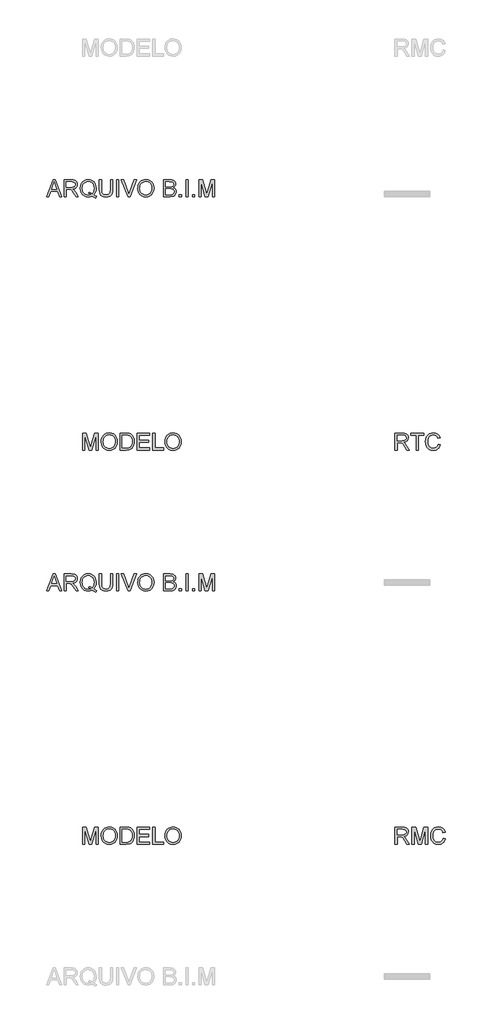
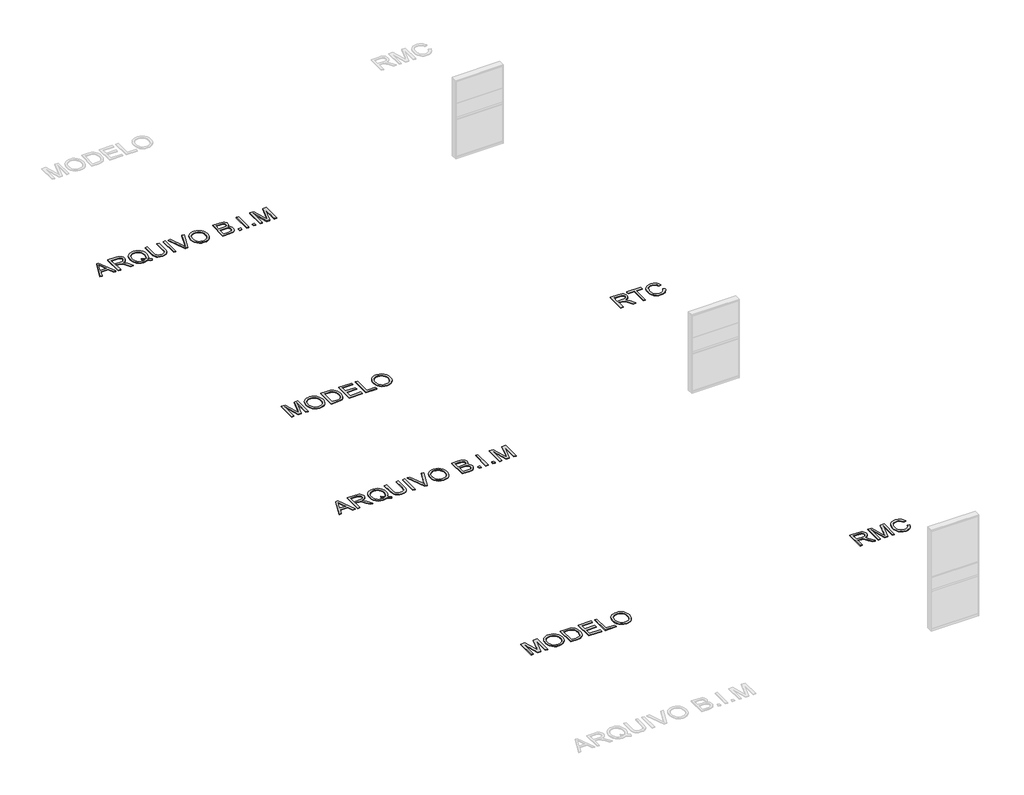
# One storey, part 9 of 15: 6 proxies.
"""IFC4 building model written with IfcOpenShell, lengths in millimetres."""

from ifc_helpers import new_model, si_unit, origin, origin_with_axes, place, context, project, spatial, polyline, outline, extrude, element, save

model = new_model("IFC4")

# Units and contexts
model_context = context("Model", 3, world=origin())
ifc_project = project(units=[si_unit("LENGTHUNIT", "METRE", prefix="MILLI")], contexts=[model_context])

# Site, building, storey
site = spatial("IfcSite", under=ifc_project)
building = spatial("IfcBuilding", under=site)
storey = spatial("IfcBuildingStorey", under=building, Name="Marelli - Linha REASONS - Planta Baixa", Elevation=0.0)

# Proxies
placement = place(None, origin())
element("IfcBuildingElementProxy", 1, Name="300mm Arial", ObjectType="300mm Arial", at=placement, inside=storey, context=model_context, shape_type="SweptSolid", body=[
    extrude(outline(polyline([(9390.580402, -70280.5663201), (9510.8778144, -69979.1973896), (9542.9571244, -69979.1973896), (9663.2545368, -70280.5663201), (9623.449705, -70280.5663201), (9588.9423738, -70186.3885293), (9464.8189886, -70186.3885293), (9430.3852339, -70280.5663201), (9390.580402, -70280.5663201)]), holes=[polyline([(9478.6513517, -70148.717413), (9575.1835872, -70148.717413), (9548.0338959, -70074.6259792), (9526.9174694, -70016.8685059), (9508.1554877, -70068.1512561), (9478.6513517, -70148.717413)])]), origin_with_axes(), (0.0, 0.0, 1.0), 10.0),
    extrude(outline(polyline([(9703.5008271, -70280.5663201), (9703.5008271, -69979.1973896), (9833.3631714, -69979.1973896), (9868.2659757, -69981.2299376), (9893.6590304, -69987.3275817), (9912.2186771, -69998.5847708), (9926.6212572, -70016.0959537), (9935.8642923, -70037.8101885), (9938.945304, -70061.6765329), (9933.8409413, -70091.3646099), (9918.5278533, -70115.9759154), (9906.9280741, -70126.0052983), (9892.5461874, -70134.0205273), (9855.4360911, -70144.0085235), (9876.8468232, -70160.1217548), (9907.3810288, -70198.8965171), (9957.6337094, -70280.5663201), (9913.855752, -70280.5663201), (9874.6395313, -70218.0999573), (9846.3126176, -70176.750021), (9826.4102017, -70157.2154871), (9808.4943485, -70150.0417882), (9786.642158, -70148.717413), (9741.1719434, -70148.717413), (9741.1719434, -70280.5663201), (9703.5008271, -70280.5663201)]), holes=[polyline([(9741.1719434, -70111.0462967), (9825.4904967, -70111.0462967), (9849.706329, -70109.7127245), (9868.4959019, -70105.7120078), (9882.6409647, -70098.7774322), (9892.9232664, -70088.6422832), (9899.1864574, -70076.3826157), (9901.2741877, -70063.0744845), (9897.2918651, -70044.6987789), (9885.3448973, -70029.8915286), (9864.7894908, -70020.1242616), (9834.9818522, -70016.8685059), (9741.1719434, -70016.8685059), (9741.1719434, -70111.0462967)])]), origin_with_axes(), (0.0, 0.0, 1.0), 10.0),
    extrude(outline(polyline([(10231.2643374, -70244.4403081), (10255.5997314, -70263.036743), (10277.9853508, -70275.8574305), (10267.8318077, -70303.4485802), (10236.7641732, -70289.0460001), (10205.8069033, -70268.205485), (10170.9500843, -70281.0077785), (10132.5983863, -70285.2752096), (10094.0627473, -70280.3547879), (10059.2427164, -70265.5935229), (10030.0788713, -70241.9203165), (10008.5117893, -70210.2640708), (9995.185264, -70172.3630282), (9990.7430889, -70129.9554312), (9995.176067, -70087.511046), (10008.4750011, -70049.0581805), (10029.9593096, -70016.9512794), (10058.9484108, -69993.5447874), (10093.639683, -69979.2525719), (10132.2305043, -69974.4885001), (10171.1248282, -69979.3629365), (10205.9908443, -69993.9862458), (10234.9339603, -70017.3835407), (10256.0595839, -70048.5799339), (10268.9722419, -70085.9199564), (10273.2764612, -70127.7481393), (10270.6644991, -70162.5313819), (10262.8286126, -70193.5990164), (10249.7136194, -70220.9142546), (10231.2643374, -70244.4403081)]), holes=[polyline([(10142.9726585, -70194.3347804), (10174.6472983, -70206.3093393), (10200.215097, -70222.9559996), (10215.6983305, -70205.4816049), (10226.7577829, -70184.1076609), (10233.3934544, -70158.8341679), (10235.6053449, -70129.6611256), (10232.478348, -70096.5057608), (10223.0973571, -70067.8201623), (10207.6922985, -70044.3308969), (10186.4930986, -70026.7645316), (10160.934497, -70015.8108452), (10132.4512335, -70012.1596164), (10110.966925, -70014.0059242), (10091.3956028, -70019.5448474), (10073.7372671, -70028.7763863), (10057.9919177, -70041.7005406), (10045.0516685, -70058.2897193), (10035.8086334, -70078.5163313), (10030.2628123, -70102.3803764), (10028.4142052, -70129.8818548), (10030.2421189, -70156.6659634), (10035.7258599, -70180.1437324), (10044.8654282, -70200.3151621), (10057.6608239, -70217.1802523), (10073.2981079, -70230.4906827), (10090.9633415, -70239.9981331), (10110.6565245, -70245.7026032), (10132.3776571, -70247.6040933), (10153.2917485, -70245.6727128), (10172.918253, -70239.8785714), (10153.6228423, -70229.853787), (10133.2605739, -70223.1767288), (10142.9726585, -70194.3347804)])]), origin_with_axes(), (0.0, 0.0, 1.0), 10.0),
    extrude(outline(polyline([(10527.5564963, -69979.1973896), (10565.2276126, -69979.1973896), (10565.2276126, -70153.0584205), (10562.6708327, -70193.7737604), (10555.0004931, -70225.1265034), (10540.6714894, -70249.3147446), (10518.1387172, -70268.5365788), (10487.3469942, -70281.0905519), (10448.2411381, -70285.2752096), (10409.9906077, -70281.6331779), (10379.4104168, -70270.7070826), (10356.4913685, -70252.8740029), (10341.2242657, -70228.5110178), (10332.6434182, -70195.8338995), (10329.7831357, -70153.0584205), (10329.7831357, -69979.1973896), (10367.454252, -69979.1973896), (10367.454252, -70151.7340454), (10369.3120561, -70185.588386), (10374.8854683, -70209.1604248), (10384.9838291, -70225.4851883), (10400.4164788, -70237.597703), (10420.5396239, -70245.1024957), (10444.709471, -70247.6040933), (10483.0243808, -70242.6560805), (10497.3671801, -70236.4710644), (10508.500209, -70227.812042), (10516.8373347, -70215.6351479), (10522.7924245, -70198.8965171), (10527.5564963, -70151.7340454), (10527.5564963, -69979.1973896)])), origin_with_axes(), (0.0, 0.0, 1.0), 10.0),
    extrude(outline(polyline([(10635.8609557, -70280.5663201), (10635.8609557, -69979.1973896), (10673.532072, -69979.1973896), (10673.532072, -70280.5663201), (10635.8609557, -70280.5663201)])), origin_with_axes(), (0.0, 0.0, 1.0), 10.0),
    extrude(outline(polyline([(10837.9017474, -70280.5663201), (10717.972217, -69979.1973896), (10758.2920837, -69979.1973896), (10838.563935, -70196.3213432), (10854.8243192, -70245.2496485), (10870.8639742, -70196.3213432), (10951.3565547, -69979.1973896), (10991.6764214, -69979.1973896), (10876.8236625, -70280.5663201), (10837.9017474, -70280.5663201)])), origin_with_axes(), (0.0, 0.0, 1.0), 10.0),
    extrude(outline(polyline([(11012.5721187, -70133.8549804), (11015.0829134, -70098.5061192), (11022.6152972, -70067.213157), (11035.1692703, -70039.9760937), (11052.7448326, -70016.7949295), (11074.288922, -69998.2858666), (11098.7484761, -69985.0651074), (11126.1234951, -69977.1326519), (11156.4139789, -69974.4885001), (11195.9428992, -69979.454907), (11231.3883295, -69994.3541278), (11260.8188891, -70018.1376988), (11282.3031976, -70049.7571563), (11295.4365848, -70087.68579), (11299.8143806, -70130.3968896), (11295.2066586, -70173.6782064), (11281.3834926, -70212.140269), (11259.1082378, -70243.8149088), (11229.1442493, -70266.733957), (11194.0023217, -70280.6398965), (11156.1932497, -70285.2752096), (11116.057324, -70280.1524528), (11080.4095587, -70264.7841825), (11051.0525754, -70240.5591531), (11029.7889961, -70208.8661192), (11016.8763381, -70172.3998164), (11012.5721187, -70133.8549804)]), holes=[polyline([(11050.2432351, -70134.2228624), (11052.126331, -70159.1974513), (11057.7756189, -70181.3669401), (11067.1910987, -70200.7313286), (11080.3727705, -70217.2906169), (11096.3963306, -70230.5527628), (11114.3374757, -70240.0257242), (11134.1962056, -70245.709501), (11155.9725205, -70247.6040933), (11178.1213158, -70245.6911069), (11198.2145706, -70239.9521478), (11216.2522846, -70230.3872159), (11232.2344581, -70216.9963113), (11245.3195608, -70200.0875351), (11254.6660627, -70179.9689885), (11260.2739639, -70156.6406715), (11262.1432643, -70130.102584), (11258.9426909, -70096.7540812), (11249.3409708, -70067.9305269), (11233.5864244, -70044.358488), (11211.9273719, -70026.7645316), (11185.7985532, -70015.8108452), (11156.6347081, -70012.1596164), (11135.6148506, -70013.9185522), (11116.1125063, -70019.1953595), (11098.1276752, -70027.9900385), (11081.6603574, -70040.302589), (11067.9153664, -70056.7262208), (11058.0975156, -70077.8541437), (11052.2068052, -70103.6863575), (11050.2432351, -70134.2228624)])]), origin_with_axes(), (0.0, 0.0, 1.0), 10.0),
    extrude(outline(polyline([(11469.334404, -70280.5663201), (11469.334404, -69979.1973896), (11584.3343156, -69979.1973896), (11615.9629702, -69981.4138786), (11640.6570491, -69988.0633457), (11659.5845778, -69999.3113377), (11673.9135815, -70015.3234015), (11682.9358874, -70034.1589597), (11685.9433227, -70053.8774346), (11683.414134, -70072.0232141), (11675.8265679, -70089.0837416), (11663.125442, -70104.0105535), (11645.2555741, -70115.7551862), (11666.6019268, -70126.9020107), (11682.3748674, -70143.8613707), (11692.1145432, -70165.5112261), (11695.3611018, -70190.7295368), (11693.1446128, -70211.7447958), (11686.4951457, -70231.2333445), (11676.5715289, -70247.8064284), (11664.5325906, -70260.0752929), (11649.7897196, -70268.9596431), (11631.7543048, -70275.3791839), (11583.4513989, -70280.5663201), (11469.334404, -70280.5663201)]), holes=[polyline([(11507.0055203, -70101.6285176), (11575.7994534, -70101.6285176), (11615.9721672, -70098.3911561), (11630.0344565, -70092.8085468), (11640.1420143, -70084.4484284), (11646.2396584, -70073.4395597), (11648.2722064, -70059.9106994), (11646.3776141, -70046.7773121), (11640.6938373, -70035.3361821), (11631.4783933, -70026.4058467), (11618.9887996, -70020.8048433), (11570.575529, -70016.8685059), (11507.0055203, -70016.8685059), (11507.0055203, -70101.6285176)]), polyline([(11507.0055203, -70242.8952038), (11584.2607393, -70242.8952038), (11612.2197709, -70241.4236758), (11635.8745832, -70233.2199073), (11651.5463562, -70216.4812765), (11656.1540782, -70204.6538704), (11657.6899855, -70191.0974188), (11655.8873637, -70175.3520694), (11650.4794984, -70161.814012), (11641.0341282, -70151.2282076), (11627.1189917, -70144.3396173), (11607.4097138, -70140.5596298), (11580.5819193, -70139.2996339), (11507.0055203, -70139.2996339), (11507.0055203, -70242.8952038)])]), origin_with_axes(), (0.0, 0.0, 1.0), 10.0),
    extrude(outline(polyline([(11751.8677763, -70280.5663201), (11751.8677763, -70242.8952038), (11789.5388926, -70242.8952038), (11789.5388926, -70280.5663201), (11751.8677763, -70280.5663201)])), origin_with_axes(), (0.0, 0.0, 1.0), 10.0),
    extrude(outline(polyline([(11869.5900147, -70280.5663201), (11869.5900147, -69979.1973896), (11907.261131, -69979.1973896), (11907.261131, -70280.5663201), (11869.5900147, -70280.5663201)])), origin_with_axes(), (0.0, 0.0, 1.0), 10.0),
    extrude(outline(polyline([(11987.3122532, -70280.5663201), (11987.3122532, -70242.8952038), (12024.9833695, -70242.8952038), (12024.9833695, -70280.5663201), (11987.3122532, -70280.5663201)])), origin_with_axes(), (0.0, 0.0, 1.0), 10.0),
    extrude(outline(polyline([(12100.3256021, -70280.5663201), (12100.3256021, -69979.1973896), (12165.1464096, -69979.1973896), (12226.803432, -70191.6124536), (12239.2378435, -70235.9790223), (12252.7023245, -70187.9336337), (12313.3292773, -69979.1973896), (12378.1500848, -69979.1973896), (12378.1500848, -70280.5663201), (12340.4789685, -70280.5663201), (12340.4789685, -70016.8685059), (12264.7688539, -70280.5663201), (12213.706833, -70280.5663201), (12137.9967184, -70016.8685059), (12137.9967184, -70280.5663201), (12100.3256021, -70280.5663201)])), origin_with_axes(), (0.0, 0.0, 1.0), 10.0),
])
element("IfcBuildingElementProxy", 2, Name="300mm Arial", ObjectType="300mm Arial", at=placement, inside=storey, context=model_context, shape_type="SweptSolid", body=[
    extrude(outline(polyline([(10033.1230948, -67780.5663201), (10033.1230948, -67479.1973896), (10097.9439023, -67479.1973896), (10159.6009247, -67691.6124536), (10172.0353362, -67735.9790223), (10185.4998172, -67687.9336337), (10246.12677, -67479.1973896), (10310.9475775, -67479.1973896), (10310.9475775, -67780.5663201), (10273.2764612, -67780.5663201), (10273.2764612, -67516.8685059), (10197.5663466, -67780.5663201), (10146.5043257, -67780.5663201), (10070.7942111, -67516.8685059), (10070.7942111, -67780.5663201), (10033.1230948, -67780.5663201)])), origin_with_axes(), (0.0, 0.0, 1.0), 10.0),
    extrude(outline(polyline([(10362.7453625, -67633.8549804), (10365.2561571, -67598.5061192), (10372.7885409, -67567.213157), (10385.342514, -67539.9760937), (10402.9180763, -67516.7949295), (10424.4621657, -67498.2858666), (10448.9217198, -67485.0651074), (10476.2967388, -67477.1326519), (10506.5872226, -67474.4885001), (10546.116143, -67479.454907), (10581.5615732, -67494.3541278), (10610.9921328, -67518.1376988), (10632.4764413, -67549.7571563), (10645.6098286, -67587.68579), (10649.9876243, -67630.3968896), (10645.3799023, -67673.6782064), (10631.5567363, -67712.140269), (10609.2814815, -67743.8149088), (10579.317493, -67766.733957), (10544.1755654, -67780.6398965), (10506.3664934, -67785.2752096), (10466.2305677, -67780.1524528), (10430.5828024, -67764.7841825), (10401.2258192, -67740.5591531), (10379.9622398, -67708.8661192), (10367.0495818, -67672.3998164), (10362.7453625, -67633.8549804)]), holes=[polyline([(10400.4164788, -67634.2228624), (10402.2995747, -67659.1974513), (10407.9488626, -67681.3669401), (10417.3643424, -67700.7313286), (10430.5460142, -67717.2906169), (10446.5695743, -67730.5527628), (10464.5107194, -67740.0257242), (10484.3694493, -67745.709501), (10506.1457642, -67747.6040933), (10528.2945596, -67745.6911069), (10548.3878143, -67739.9521478), (10566.4255284, -67730.3872159), (10582.4077018, -67716.9963113), (10595.4928045, -67700.0875351), (10604.8393064, -67679.9689885), (10610.4472076, -67656.6406715), (10612.316508, -67630.102584), (10609.1159346, -67596.7540812), (10599.5142146, -67567.9305269), (10583.7596681, -67544.358488), (10562.1006157, -67526.7645316), (10535.9717969, -67515.8108452), (10506.8079518, -67512.1596164), (10485.7880943, -67513.9185522), (10466.28575, -67519.1953595), (10448.300919, -67527.9900385), (10431.8336012, -67540.302589), (10418.0886101, -67556.7262208), (10408.2707594, -67577.8541437), (10402.3800489, -67603.6863575), (10400.4164788, -67634.2228624)])]), origin_with_axes(), (0.0, 0.0, 1.0), 10.0),
    extrude(outline(polyline([(10701.7854092, -67780.5663201), (10701.7854092, -67479.1973896), (10805.7488611, -67479.1973896), (10859.5332088, -67483.5383972), (10883.555903, -67491.9077126), (10903.826201, -67505.0962821), (10924.666716, -67528.0521186), (10939.5107545, -67556.5997614), (10948.3951047, -67590.1873876), (10951.3565547, -67628.2631741), (10949.3515979, -67660.6091985), (10943.3367273, -67689.0740679), (10934.1764656, -67713.3082943), (10922.7353355, -67732.9623899), (10909.5651601, -67748.477813), (10895.2177623, -67760.2960221), (10878.745846, -67769.0608107), (10859.202115, -67775.4159721), (10810.7520562, -67780.5663201), (10701.7854092, -67780.5663201)]), holes=[polyline([(10739.4565255, -67742.8952038), (10806.1167431, -67742.8952038), (10833.6894986, -67741.5340404), (10854.60359, -67737.4505502), (10870.3857276, -67730.8838566), (10882.5626217, -67722.0730828), (10895.6500236, -67705.7667134), (10905.48167, -67684.6594839), (10911.6344963, -67658.6594239), (10913.6854384, -67627.6745629), (10909.6663276, -67586.6189322), (10897.6089953, -67556.3054558), (10879.7943096, -67535.4833349), (10858.5031392, -67522.9017706), (10836.8348897, -67518.3768221), (10805.0866735, -67516.8685059), (10739.4565255, -67516.8685059), (10739.4565255, -67742.8952038)])]), origin_with_axes(), (0.0, 0.0, 1.0), 10.0),
    extrude(outline(polyline([(11003.1543397, -67780.5663201), (11003.1543397, -67479.1973896), (11219.7632584, -67479.1973896), (11219.7632584, -67516.8685059), (11040.825456, -67516.8685059), (11040.825456, -67606.3374072), (11210.3454794, -67606.3374072), (11210.3454794, -67644.0085235), (11040.825456, -67644.0085235), (11040.825456, -67742.8952038), (11224.472148, -67742.8952038), (11224.472148, -67780.5663201), (11003.1543397, -67780.5663201)])), origin_with_axes(), (0.0, 0.0, 1.0), 10.0),
    extrude(outline(polyline([(11280.9788224, -67780.5663201), (11280.9788224, -67479.1973896), (11318.6499387, -67479.1973896), (11318.6499387, -67742.8952038), (11469.334404, -67742.8952038), (11469.334404, -67780.5663201), (11280.9788224, -67780.5663201)])), origin_with_axes(), (0.0, 0.0, 1.0), 10.0),
    extrude(outline(polyline([(11497.5877412, -67633.8549804), (11500.0985358, -67598.5061192), (11507.6309197, -67567.213157), (11520.1848927, -67539.9760937), (11537.7604551, -67516.7949295), (11559.3045444, -67498.2858666), (11583.7640986, -67485.0651074), (11611.1391175, -67477.1326519), (11641.4296013, -67474.4885001), (11680.9585217, -67479.454907), (11716.4039519, -67494.3541278), (11745.8345115, -67518.1376988), (11767.3188201, -67549.7571563), (11780.4522073, -67587.68579), (11784.830003, -67630.3968896), (11780.222281, -67673.6782064), (11766.3991151, -67712.140269), (11744.1238603, -67743.8149088), (11714.1598717, -67766.733957), (11679.0179442, -67780.6398965), (11641.2088721, -67785.2752096), (11601.0729464, -67780.1524528), (11565.4251811, -67764.7841825), (11536.0681979, -67740.5591531), (11514.8046186, -67708.8661192), (11501.8919605, -67672.3998164), (11497.5877412, -67633.8549804)]), holes=[polyline([(11535.2588575, -67634.2228624), (11537.1419535, -67659.1974513), (11542.7912413, -67681.3669401), (11552.2067212, -67700.7313286), (11565.3883929, -67717.2906169), (11581.4119531, -67730.5527628), (11599.3530981, -67740.0257242), (11619.2118281, -67745.709501), (11640.9881429, -67747.6040933), (11663.1369383, -67745.6911069), (11683.230193, -67739.9521478), (11701.2679071, -67730.3872159), (11717.2500805, -67716.9963113), (11730.3351832, -67700.0875351), (11739.6816852, -67679.9689885), (11745.2895863, -67656.6406715), (11747.1588867, -67630.102584), (11743.9583134, -67596.7540812), (11734.3565933, -67567.9305269), (11718.6020468, -67544.358488), (11696.9429944, -67526.7645316), (11670.8141757, -67515.8108452), (11641.6503305, -67512.1596164), (11620.630473, -67513.9185522), (11601.1281287, -67519.1953595), (11583.1432977, -67527.9900385), (11566.6759799, -67540.302589), (11552.9309888, -67556.7262208), (11543.1131381, -67577.8541437), (11537.2224276, -67603.6863575), (11535.2588575, -67634.2228624)])]), origin_with_axes(), (0.0, 0.0, 1.0), 10.0),
])
element("IfcBuildingElementProxy", 3, Name="300mm Arial", ObjectType="300mm Arial", at=placement, inside=storey, context=model_context, shape_type="SweptSolid", body=[
    extrude(outline(polyline([(9390.580402, -63280.5663201), (9510.8778144, -62979.1973896), (9542.9571244, -62979.1973896), (9663.2545368, -63280.5663201), (9623.449705, -63280.5663201), (9588.9423738, -63186.3885293), (9464.8189886, -63186.3885293), (9430.3852339, -63280.5663201), (9390.580402, -63280.5663201)]), holes=[polyline([(9478.6513517, -63148.717413), (9575.1835872, -63148.717413), (9548.0338959, -63074.6259792), (9526.9174694, -63016.8685059), (9508.1554877, -63068.1512561), (9478.6513517, -63148.717413)])]), origin_with_axes(), (0.0, 0.0, 1.0), 10.0),
    extrude(outline(polyline([(9703.5008271, -63280.5663201), (9703.5008271, -62979.1973896), (9833.3631714, -62979.1973896), (9868.2659757, -62981.2299376), (9893.6590304, -62987.3275817), (9912.2186771, -62998.5847708), (9926.6212572, -63016.0959537), (9935.8642923, -63037.8101885), (9938.945304, -63061.6765329), (9933.8409413, -63091.3646099), (9918.5278533, -63115.9759154), (9906.9280741, -63126.0052983), (9892.5461874, -63134.0205273), (9855.4360911, -63144.0085235), (9876.8468232, -63160.1217548), (9907.3810288, -63198.8965171), (9957.6337094, -63280.5663201), (9913.855752, -63280.5663201), (9874.6395313, -63218.0999573), (9846.3126176, -63176.750021), (9826.4102017, -63157.2154871), (9808.4943485, -63150.0417882), (9786.642158, -63148.717413), (9741.1719434, -63148.717413), (9741.1719434, -63280.5663201), (9703.5008271, -63280.5663201)]), holes=[polyline([(9741.1719434, -63111.0462967), (9825.4904967, -63111.0462967), (9849.706329, -63109.7127245), (9868.4959019, -63105.7120078), (9882.6409647, -63098.7774322), (9892.9232664, -63088.6422832), (9899.1864574, -63076.3826157), (9901.2741877, -63063.0744845), (9897.2918651, -63044.6987789), (9885.3448973, -63029.8915286), (9864.7894908, -63020.1242616), (9834.9818522, -63016.8685059), (9741.1719434, -63016.8685059), (9741.1719434, -63111.0462967)])]), origin_with_axes(), (0.0, 0.0, 1.0), 10.0),
    extrude(outline(polyline([(10231.2643374, -63244.4403081), (10255.5997314, -63263.036743), (10277.9853508, -63275.8574305), (10267.8318077, -63303.4485802), (10236.7641732, -63289.0460001), (10205.8069033, -63268.205485), (10170.9500843, -63281.0077785), (10132.5983863, -63285.2752096), (10094.0627473, -63280.3547879), (10059.2427164, -63265.5935229), (10030.0788713, -63241.9203165), (10008.5117893, -63210.2640708), (9995.185264, -63172.3630282), (9990.7430889, -63129.9554312), (9995.176067, -63087.511046), (10008.4750011, -63049.0581805), (10029.9593096, -63016.9512794), (10058.9484108, -62993.5447874), (10093.639683, -62979.2525719), (10132.2305043, -62974.4885001), (10171.1248282, -62979.3629365), (10205.9908443, -62993.9862458), (10234.9339603, -63017.3835407), (10256.0595839, -63048.5799339), (10268.9722419, -63085.9199564), (10273.2764612, -63127.7481393), (10270.6644991, -63162.5313819), (10262.8286126, -63193.5990164), (10249.7136194, -63220.9142546), (10231.2643374, -63244.4403081)]), holes=[polyline([(10142.9726585, -63194.3347804), (10174.6472983, -63206.3093393), (10200.215097, -63222.9559996), (10215.6983305, -63205.4816049), (10226.7577829, -63184.1076609), (10233.3934544, -63158.8341679), (10235.6053449, -63129.6611256), (10232.478348, -63096.5057608), (10223.0973571, -63067.8201623), (10207.6922985, -63044.3308969), (10186.4930986, -63026.7645316), (10160.934497, -63015.8108452), (10132.4512335, -63012.1596164), (10110.966925, -63014.0059242), (10091.3956028, -63019.5448474), (10073.7372671, -63028.7763863), (10057.9919177, -63041.7005406), (10045.0516685, -63058.2897193), (10035.8086334, -63078.5163313), (10030.2628123, -63102.3803764), (10028.4142052, -63129.8818548), (10030.2421189, -63156.6659634), (10035.7258599, -63180.1437324), (10044.8654282, -63200.3151621), (10057.6608239, -63217.1802523), (10073.2981079, -63230.4906827), (10090.9633415, -63239.9981331), (10110.6565245, -63245.7026032), (10132.3776571, -63247.6040933), (10153.2917485, -63245.6727128), (10172.918253, -63239.8785714), (10153.6228423, -63229.853787), (10133.2605739, -63223.1767288), (10142.9726585, -63194.3347804)])]), origin_with_axes(), (0.0, 0.0, 1.0), 10.0),
    extrude(outline(polyline([(10527.5564963, -62979.1973896), (10565.2276126, -62979.1973896), (10565.2276126, -63153.0584205), (10562.6708327, -63193.7737604), (10555.0004931, -63225.1265034), (10540.6714894, -63249.3147446), (10518.1387172, -63268.5365788), (10487.3469942, -63281.0905519), (10448.2411381, -63285.2752096), (10409.9906077, -63281.6331779), (10379.4104168, -63270.7070826), (10356.4913685, -63252.8740029), (10341.2242657, -63228.5110178), (10332.6434182, -63195.8338995), (10329.7831357, -63153.0584205), (10329.7831357, -62979.1973896), (10367.454252, -62979.1973896), (10367.454252, -63151.7340454), (10369.3120561, -63185.588386), (10374.8854683, -63209.1604248), (10384.9838291, -63225.4851883), (10400.4164788, -63237.597703), (10420.5396239, -63245.1024957), (10444.709471, -63247.6040933), (10483.0243808, -63242.6560805), (10497.3671801, -63236.4710644), (10508.500209, -63227.812042), (10516.8373347, -63215.6351479), (10522.7924245, -63198.8965171), (10527.5564963, -63151.7340454), (10527.5564963, -62979.1973896)])), origin_with_axes(), (0.0, 0.0, 1.0), 10.0),
    extrude(outline(polyline([(10635.8609557, -63280.5663201), (10635.8609557, -62979.1973896), (10673.532072, -62979.1973896), (10673.532072, -63280.5663201), (10635.8609557, -63280.5663201)])), origin_with_axes(), (0.0, 0.0, 1.0), 10.0),
    extrude(outline(polyline([(10837.9017474, -63280.5663201), (10717.972217, -62979.1973896), (10758.2920837, -62979.1973896), (10838.563935, -63196.3213432), (10854.8243192, -63245.2496485), (10870.8639742, -63196.3213432), (10951.3565547, -62979.1973896), (10991.6764214, -62979.1973896), (10876.8236625, -63280.5663201), (10837.9017474, -63280.5663201)])), origin_with_axes(), (0.0, 0.0, 1.0), 10.0),
    extrude(outline(polyline([(11012.5721187, -63133.8549804), (11015.0829134, -63098.5061192), (11022.6152972, -63067.213157), (11035.1692703, -63039.9760937), (11052.7448326, -63016.7949295), (11074.288922, -62998.2858666), (11098.7484761, -62985.0651074), (11126.1234951, -62977.1326519), (11156.4139789, -62974.4885001), (11195.9428992, -62979.454907), (11231.3883295, -62994.3541278), (11260.8188891, -63018.1376988), (11282.3031976, -63049.7571563), (11295.4365848, -63087.68579), (11299.8143806, -63130.3968896), (11295.2066586, -63173.6782064), (11281.3834926, -63212.140269), (11259.1082378, -63243.8149088), (11229.1442493, -63266.733957), (11194.0023217, -63280.6398965), (11156.1932497, -63285.2752096), (11116.057324, -63280.1524528), (11080.4095587, -63264.7841825), (11051.0525754, -63240.5591531), (11029.7889961, -63208.8661192), (11016.8763381, -63172.3998164), (11012.5721187, -63133.8549804)]), holes=[polyline([(11050.2432351, -63134.2228624), (11052.126331, -63159.1974513), (11057.7756189, -63181.3669401), (11067.1910987, -63200.7313286), (11080.3727705, -63217.2906169), (11096.3963306, -63230.5527628), (11114.3374757, -63240.0257242), (11134.1962056, -63245.709501), (11155.9725205, -63247.6040933), (11178.1213158, -63245.6911069), (11198.2145706, -63239.9521478), (11216.2522846, -63230.3872159), (11232.2344581, -63216.9963113), (11245.3195608, -63200.0875351), (11254.6660627, -63179.9689885), (11260.2739639, -63156.6406715), (11262.1432643, -63130.102584), (11258.9426909, -63096.7540812), (11249.3409708, -63067.9305269), (11233.5864244, -63044.358488), (11211.9273719, -63026.7645316), (11185.7985532, -63015.8108452), (11156.6347081, -63012.1596164), (11135.6148506, -63013.9185522), (11116.1125063, -63019.1953595), (11098.1276752, -63027.9900385), (11081.6603574, -63040.302589), (11067.9153664, -63056.7262208), (11058.0975156, -63077.8541437), (11052.2068052, -63103.6863575), (11050.2432351, -63134.2228624)])]), origin_with_axes(), (0.0, 0.0, 1.0), 10.0),
    extrude(outline(polyline([(11469.334404, -63280.5663201), (11469.334404, -62979.1973896), (11584.3343156, -62979.1973896), (11615.9629702, -62981.4138786), (11640.6570491, -62988.0633457), (11659.5845778, -62999.3113377), (11673.9135815, -63015.3234015), (11682.9358874, -63034.1589597), (11685.9433227, -63053.8774346), (11683.414134, -63072.0232141), (11675.8265679, -63089.0837416), (11663.125442, -63104.0105535), (11645.2555741, -63115.7551862), (11666.6019268, -63126.9020107), (11682.3748674, -63143.8613707), (11692.1145432, -63165.5112261), (11695.3611018, -63190.7295368), (11693.1446128, -63211.7447958), (11686.4951457, -63231.2333445), (11676.5715289, -63247.8064284), (11664.5325906, -63260.0752929), (11649.7897196, -63268.9596431), (11631.7543048, -63275.3791839), (11583.4513989, -63280.5663201), (11469.334404, -63280.5663201)]), holes=[polyline([(11507.0055203, -63101.6285176), (11575.7994534, -63101.6285176), (11615.9721672, -63098.3911561), (11630.0344565, -63092.8085468), (11640.1420143, -63084.4484284), (11646.2396584, -63073.4395597), (11648.2722064, -63059.9106994), (11646.3776141, -63046.7773121), (11640.6938373, -63035.3361821), (11631.4783933, -63026.4058467), (11618.9887996, -63020.8048433), (11570.575529, -63016.8685059), (11507.0055203, -63016.8685059), (11507.0055203, -63101.6285176)]), polyline([(11507.0055203, -63242.8952038), (11584.2607393, -63242.8952038), (11612.2197709, -63241.4236758), (11635.8745832, -63233.2199073), (11651.5463562, -63216.4812765), (11656.1540782, -63204.6538704), (11657.6899855, -63191.0974188), (11655.8873637, -63175.3520694), (11650.4794984, -63161.814012), (11641.0341282, -63151.2282076), (11627.1189917, -63144.3396173), (11607.4097138, -63140.5596298), (11580.5819193, -63139.2996339), (11507.0055203, -63139.2996339), (11507.0055203, -63242.8952038)])]), origin_with_axes(), (0.0, 0.0, 1.0), 10.0),
    extrude(outline(polyline([(11751.8677763, -63280.5663201), (11751.8677763, -63242.8952038), (11789.5388926, -63242.8952038), (11789.5388926, -63280.5663201), (11751.8677763, -63280.5663201)])), origin_with_axes(), (0.0, 0.0, 1.0), 10.0),
    extrude(outline(polyline([(11869.5900147, -63280.5663201), (11869.5900147, -62979.1973896), (11907.261131, -62979.1973896), (11907.261131, -63280.5663201), (11869.5900147, -63280.5663201)])), origin_with_axes(), (0.0, 0.0, 1.0), 10.0),
    extrude(outline(polyline([(11987.3122532, -63280.5663201), (11987.3122532, -63242.8952038), (12024.9833695, -63242.8952038), (12024.9833695, -63280.5663201), (11987.3122532, -63280.5663201)])), origin_with_axes(), (0.0, 0.0, 1.0), 10.0),
    extrude(outline(polyline([(12100.3256021, -63280.5663201), (12100.3256021, -62979.1973896), (12165.1464096, -62979.1973896), (12226.803432, -63191.6124536), (12239.2378435, -63235.9790223), (12252.7023245, -63187.9336337), (12313.3292773, -62979.1973896), (12378.1500848, -62979.1973896), (12378.1500848, -63280.5663201), (12340.4789685, -63280.5663201), (12340.4789685, -63016.8685059), (12264.7688539, -63280.5663201), (12213.706833, -63280.5663201), (12137.9967184, -63016.8685059), (12137.9967184, -63280.5663201), (12100.3256021, -63280.5663201)])), origin_with_axes(), (0.0, 0.0, 1.0), 10.0),
])
element("IfcBuildingElementProxy", 4, Name="300mm Arial", ObjectType="300mm Arial", at=placement, inside=storey, context=model_context, shape_type="SweptSolid", body=[
    extrude(outline(polyline([(10033.1230948, -74780.5663201), (10033.1230948, -74479.1973896), (10097.9439023, -74479.1973896), (10159.6009247, -74691.6124536), (10172.0353362, -74735.9790223), (10185.4998172, -74687.9336337), (10246.12677, -74479.1973896), (10310.9475775, -74479.1973896), (10310.9475775, -74780.5663201), (10273.2764612, -74780.5663201), (10273.2764612, -74516.8685059), (10197.5663466, -74780.5663201), (10146.5043257, -74780.5663201), (10070.7942111, -74516.8685059), (10070.7942111, -74780.5663201), (10033.1230948, -74780.5663201)])), origin_with_axes(), (0.0, 0.0, 1.0), 10.0),
    extrude(outline(polyline([(10362.7453625, -74633.8549804), (10365.2561571, -74598.5061192), (10372.7885409, -74567.213157), (10385.342514, -74539.9760937), (10402.9180763, -74516.7949295), (10424.4621657, -74498.2858666), (10448.9217198, -74485.0651074), (10476.2967388, -74477.1326519), (10506.5872226, -74474.4885001), (10546.116143, -74479.454907), (10581.5615732, -74494.3541278), (10610.9921328, -74518.1376988), (10632.4764413, -74549.7571563), (10645.6098286, -74587.68579), (10649.9876243, -74630.3968896), (10645.3799023, -74673.6782064), (10631.5567363, -74712.140269), (10609.2814815, -74743.8149088), (10579.317493, -74766.733957), (10544.1755654, -74780.6398965), (10506.3664934, -74785.2752096), (10466.2305677, -74780.1524528), (10430.5828024, -74764.7841825), (10401.2258192, -74740.5591531), (10379.9622398, -74708.8661192), (10367.0495818, -74672.3998164), (10362.7453625, -74633.8549804)]), holes=[polyline([(10400.4164788, -74634.2228624), (10402.2995747, -74659.1974513), (10407.9488626, -74681.3669401), (10417.3643424, -74700.7313286), (10430.5460142, -74717.2906169), (10446.5695743, -74730.5527628), (10464.5107194, -74740.0257242), (10484.3694493, -74745.709501), (10506.1457642, -74747.6040933), (10528.2945596, -74745.6911069), (10548.3878143, -74739.9521478), (10566.4255284, -74730.3872159), (10582.4077018, -74716.9963113), (10595.4928045, -74700.0875351), (10604.8393064, -74679.9689885), (10610.4472076, -74656.6406715), (10612.316508, -74630.102584), (10609.1159346, -74596.7540812), (10599.5142146, -74567.9305269), (10583.7596681, -74544.358488), (10562.1006157, -74526.7645316), (10535.9717969, -74515.8108452), (10506.8079518, -74512.1596164), (10485.7880943, -74513.9185522), (10466.28575, -74519.1953595), (10448.300919, -74527.9900385), (10431.8336012, -74540.302589), (10418.0886101, -74556.7262208), (10408.2707594, -74577.8541437), (10402.3800489, -74603.6863575), (10400.4164788, -74634.2228624)])]), origin_with_axes(), (0.0, 0.0, 1.0), 10.0),
    extrude(outline(polyline([(10701.7854092, -74780.5663201), (10701.7854092, -74479.1973896), (10805.7488611, -74479.1973896), (10859.5332088, -74483.5383972), (10883.555903, -74491.9077126), (10903.826201, -74505.0962821), (10924.666716, -74528.0521186), (10939.5107545, -74556.5997614), (10948.3951047, -74590.1873876), (10951.3565547, -74628.2631741), (10949.3515979, -74660.6091985), (10943.3367273, -74689.0740679), (10934.1764656, -74713.3082943), (10922.7353355, -74732.9623899), (10909.5651601, -74748.477813), (10895.2177623, -74760.2960221), (10878.745846, -74769.0608107), (10859.202115, -74775.4159721), (10810.7520562, -74780.5663201), (10701.7854092, -74780.5663201)]), holes=[polyline([(10739.4565255, -74742.8952038), (10806.1167431, -74742.8952038), (10833.6894986, -74741.5340404), (10854.60359, -74737.4505502), (10870.3857276, -74730.8838566), (10882.5626217, -74722.0730828), (10895.6500236, -74705.7667134), (10905.48167, -74684.6594839), (10911.6344963, -74658.6594239), (10913.6854384, -74627.6745629), (10909.6663276, -74586.6189322), (10897.6089953, -74556.3054558), (10879.7943096, -74535.4833349), (10858.5031392, -74522.9017706), (10836.8348897, -74518.3768221), (10805.0866735, -74516.8685059), (10739.4565255, -74516.8685059), (10739.4565255, -74742.8952038)])]), origin_with_axes(), (0.0, 0.0, 1.0), 10.0),
    extrude(outline(polyline([(11003.1543397, -74780.5663201), (11003.1543397, -74479.1973896), (11219.7632584, -74479.1973896), (11219.7632584, -74516.8685059), (11040.825456, -74516.8685059), (11040.825456, -74606.3374072), (11210.3454794, -74606.3374072), (11210.3454794, -74644.0085235), (11040.825456, -74644.0085235), (11040.825456, -74742.8952038), (11224.472148, -74742.8952038), (11224.472148, -74780.5663201), (11003.1543397, -74780.5663201)])), origin_with_axes(), (0.0, 0.0, 1.0), 10.0),
    extrude(outline(polyline([(11280.9788224, -74780.5663201), (11280.9788224, -74479.1973896), (11318.6499387, -74479.1973896), (11318.6499387, -74742.8952038), (11469.334404, -74742.8952038), (11469.334404, -74780.5663201), (11280.9788224, -74780.5663201)])), origin_with_axes(), (0.0, 0.0, 1.0), 10.0),
    extrude(outline(polyline([(11497.5877412, -74633.8549804), (11500.0985358, -74598.5061192), (11507.6309197, -74567.213157), (11520.1848927, -74539.9760937), (11537.7604551, -74516.7949295), (11559.3045444, -74498.2858666), (11583.7640986, -74485.0651074), (11611.1391175, -74477.1326519), (11641.4296013, -74474.4885001), (11680.9585217, -74479.454907), (11716.4039519, -74494.3541278), (11745.8345115, -74518.1376988), (11767.3188201, -74549.7571563), (11780.4522073, -74587.68579), (11784.830003, -74630.3968896), (11780.222281, -74673.6782064), (11766.3991151, -74712.140269), (11744.1238603, -74743.8149088), (11714.1598717, -74766.733957), (11679.0179442, -74780.6398965), (11641.2088721, -74785.2752096), (11601.0729464, -74780.1524528), (11565.4251811, -74764.7841825), (11536.0681979, -74740.5591531), (11514.8046186, -74708.8661192), (11501.8919605, -74672.3998164), (11497.5877412, -74633.8549804)]), holes=[polyline([(11535.2588575, -74634.2228624), (11537.1419535, -74659.1974513), (11542.7912413, -74681.3669401), (11552.2067212, -74700.7313286), (11565.3883929, -74717.2906169), (11581.4119531, -74730.5527628), (11599.3530981, -74740.0257242), (11619.2118281, -74745.709501), (11640.9881429, -74747.6040933), (11663.1369383, -74745.6911069), (11683.230193, -74739.9521478), (11701.2679071, -74730.3872159), (11717.2500805, -74716.9963113), (11730.3351832, -74700.0875351), (11739.6816852, -74679.9689885), (11745.2895863, -74656.6406715), (11747.1588867, -74630.102584), (11743.9583134, -74596.7540812), (11734.3565933, -74567.9305269), (11718.6020468, -74544.358488), (11696.9429944, -74526.7645316), (11670.8141757, -74515.8108452), (11641.6503305, -74512.1596164), (11620.630473, -74513.9185522), (11601.1281287, -74519.1953595), (11583.1432977, -74527.9900385), (11566.6759799, -74540.302589), (11552.9309888, -74556.7262208), (11543.1131381, -74577.8541437), (11537.2224276, -74603.6863575), (11535.2588575, -74634.2228624)])]), origin_with_axes(), (0.0, 0.0, 1.0), 10.0),
])
element("IfcBuildingElementProxy", 5, Name="300mm Arial", ObjectType="300mm Arial", at=placement, inside=storey, context=model_context, shape_type="SweptSolid", body=[
    extrude(outline(polyline([(15588.7720603, -67780.5663201), (15588.7720603, -67479.1973896), (15718.6344046, -67479.1973896), (15753.5372089, -67481.2299376), (15778.9302636, -67487.3275817), (15797.4899103, -67498.5847708), (15811.8924904, -67516.0959537), (15821.1355255, -67537.8101885), (15824.2165372, -67561.6765329), (15819.1121745, -67591.3646099), (15803.7990865, -67615.9759154), (15792.1993073, -67626.0052983), (15777.8174206, -67634.0205273), (15740.7073243, -67644.0085235), (15762.1180564, -67660.1217548), (15792.652262, -67698.8965171), (15842.9049426, -67780.5663201), (15799.1269851, -67780.5663201), (15759.9107645, -67718.0999573), (15731.5838508, -67676.750021), (15711.6814349, -67657.2154871), (15693.7655817, -67650.0417882), (15671.9133912, -67648.717413), (15626.4431766, -67648.717413), (15626.4431766, -67780.5663201), (15588.7720603, -67780.5663201)]), holes=[polyline([(15626.4431766, -67611.0462967), (15710.7617299, -67611.0462967), (15734.9775622, -67609.7127245), (15753.7671351, -67605.7120078), (15767.9121979, -67598.7774322), (15778.1944996, -67588.6422832), (15784.4576906, -67576.3826157), (15786.5454209, -67563.0744845), (15782.5630983, -67544.6987789), (15770.6161305, -67529.8915286), (15750.060724, -67520.1242616), (15720.2530854, -67516.8685059), (15626.4431766, -67516.8685059), (15626.4431766, -67611.0462967)])]), origin_with_axes(), (0.0, 0.0, 1.0), 10.0),
    extrude(outline(polyline([(15965.4832234, -67780.5663201), (15965.4832234, -67516.8685059), (15866.5965431, -67516.8685059), (15866.5965431, -67479.1973896), (16102.04102, -67479.1973896), (16102.04102, -67516.8685059), (16003.1543397, -67516.8685059), (16003.1543397, -67780.5663201), (15965.4832234, -67780.5663201)])), origin_with_axes(), (0.0, 0.0, 1.0), 10.0),
    extrude(outline(polyline([(16356.321055, -67673.4390831), (16393.9921713, -67683.1511677), (16386.5379624, -67706.5783531), (16376.6097471, -67727.0486868), (16364.2075253, -67744.5621691), (16349.3312971, -67759.1187997), (16332.3167549, -67770.5622291), (16313.4995908, -67778.7361071), (16292.879805, -67783.640434), (16270.4573974, -67785.2752096), (16226.7622134, -67780.3271968), (16192.0617442, -67765.4831583), (16165.4638759, -67741.2581289), (16146.0764948, -67708.1671434), (16134.2398916, -67669.2636224), (16130.2943572, -67627.6009865), (16134.7549264, -67583.6574821), (16148.136634, -67545.7104543), (16169.7405041, -67514.9647166), (16198.8675611, -67492.6250824), (16233.4116805, -67479.0226457), (16271.2667378, -67474.4885001), (16312.5706888, -67480.3562179), (16330.539425, -67487.6908652), (16346.719335, -67497.9593714), (16360.8437043, -67510.8904235), (16372.6458186, -67526.2127086), (16389.2832818, -67564.0309777), (16351.6121655, -67573.0072984), (16338.5523547, -67545.5357104), (16320.7100779, -67526.6909552), (16297.864606, -67515.7924511), (16269.7952098, -67512.1596164), (16237.4399883, -67516.1879242), (16210.8605141, -67528.2728478), (16190.6913838, -67547.1451941), (16177.5671936, -67571.5357704), (16170.3659035, -67599.1085259), (16167.9654735, -67627.5274101), (16170.8073619, -67662.3290468), (16179.3330272, -67692.421794), (16193.864366, -67716.6560205), (16214.7232751, -67733.8820949), (16239.7300537, -67744.1735937), (16266.705001, -67747.6040933), (16298.1497146, -67742.931992), (16324.3521097, -67728.9156879), (16344.1349639, -67705.702334), (16356.321055, -67673.4390831)])), origin_with_axes(), (0.0, 0.0, 1.0), 10.0),
])
element("IfcBuildingElementProxy", 6, Name="300mm Arial", ObjectType="300mm Arial", at=placement, inside=storey, context=model_context, shape_type="SweptSolid", body=[
    extrude(outline(polyline([(15588.7720603, -74780.5663201), (15588.7720603, -74479.1973896), (15718.6344046, -74479.1973896), (15753.5372089, -74481.2299376), (15778.9302636, -74487.3275817), (15797.4899103, -74498.5847708), (15811.8924904, -74516.0959537), (15821.1355255, -74537.8101885), (15824.2165372, -74561.6765329), (15819.1121745, -74591.3646099), (15803.7990865, -74615.9759154), (15792.1993073, -74626.0052983), (15777.8174206, -74634.0205273), (15740.7073243, -74644.0085235), (15762.1180564, -74660.1217548), (15792.652262, -74698.8965171), (15842.9049426, -74780.5663201), (15799.1269851, -74780.5663201), (15759.9107645, -74718.0999573), (15731.5838508, -74676.750021), (15711.6814349, -74657.2154871), (15693.7655817, -74650.0417882), (15671.9133912, -74648.717413), (15626.4431766, -74648.717413), (15626.4431766, -74780.5663201), (15588.7720603, -74780.5663201)]), holes=[polyline([(15626.4431766, -74611.0462967), (15710.7617299, -74611.0462967), (15734.9775622, -74609.7127245), (15753.7671351, -74605.7120078), (15767.9121979, -74598.7774322), (15778.1944996, -74588.6422832), (15784.4576906, -74576.3826157), (15786.5454209, -74563.0744845), (15782.5630983, -74544.6987789), (15770.6161305, -74529.8915286), (15750.060724, -74520.1242616), (15720.2530854, -74516.8685059), (15626.4431766, -74516.8685059), (15626.4431766, -74611.0462967)])]), origin_with_axes(), (0.0, 0.0, 1.0), 10.0),
    extrude(outline(polyline([(15890.1409908, -74780.5663201), (15890.1409908, -74479.1973896), (15954.9617983, -74479.1973896), (16016.6188207, -74691.6124536), (16029.0532321, -74735.9790223), (16042.5177132, -74687.9336337), (16103.144666, -74479.1973896), (16167.9654735, -74479.1973896), (16167.9654735, -74780.5663201), (16130.2943572, -74780.5663201), (16130.2943572, -74516.8685059), (16054.5842426, -74780.5663201), (16003.5222217, -74780.5663201), (15927.8121071, -74516.8685059), (15927.8121071, -74780.5663201), (15890.1409908, -74780.5663201)])), origin_with_axes(), (0.0, 0.0, 1.0), 10.0),
    extrude(outline(polyline([(16445.7899563, -74673.4390831), (16483.4610726, -74683.1511677), (16476.0068636, -74706.5783531), (16466.0786483, -74727.0486868), (16453.6764265, -74744.5621691), (16438.8001984, -74759.1187997), (16421.7856561, -74770.5622291), (16402.968492, -74778.7361071), (16382.3487062, -74783.640434), (16359.9262986, -74785.2752096), (16316.2311146, -74780.3271968), (16281.5306454, -74765.4831583), (16254.9327772, -74741.2581289), (16235.545396, -74708.1671434), (16223.7087928, -74669.2636224), (16219.7632584, -74627.6009865), (16224.2238276, -74583.6574821), (16237.6055352, -74545.7104543), (16259.2094054, -74514.9647166), (16288.3364623, -74492.6250824), (16322.8805817, -74479.0226457), (16360.735639, -74474.4885001), (16402.03959, -74480.3562179), (16420.0083262, -74487.6908652), (16436.1882362, -74497.9593714), (16450.3126055, -74510.8904235), (16462.1147198, -74526.2127086), (16478.752183, -74564.0309777), (16441.0810667, -74573.0072984), (16428.0212559, -74545.5357104), (16410.1789791, -74526.6909552), (16387.3335072, -74515.7924511), (16359.264111, -74512.1596164), (16326.9088895, -74516.1879242), (16300.3294154, -74528.2728478), (16280.160285, -74547.1451941), (16267.0360948, -74571.5357704), (16259.8348048, -74599.1085259), (16257.4343747, -74627.5274101), (16260.2762631, -74662.3290468), (16268.8019284, -74692.421794), (16283.3332672, -74716.6560205), (16304.1921763, -74733.8820949), (16329.1989549, -74744.1735937), (16356.1739022, -74747.6040933), (16387.6186158, -74742.931992), (16413.8210109, -74728.9156879), (16433.6038652, -74705.702334), (16445.7899563, -74673.4390831)])), origin_with_axes(), (0.0, 0.0, 1.0), 10.0),
])

save(model, "model.ifc")
